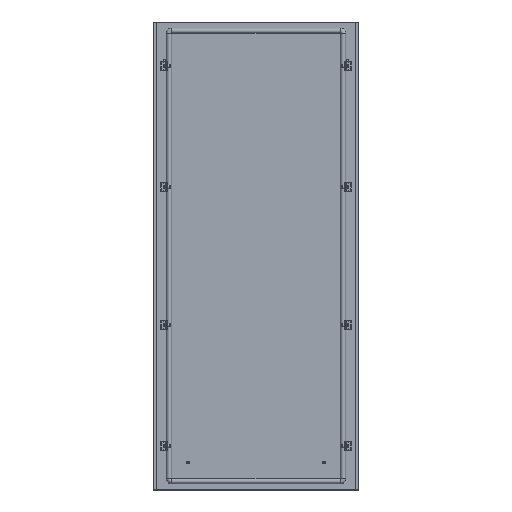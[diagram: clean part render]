
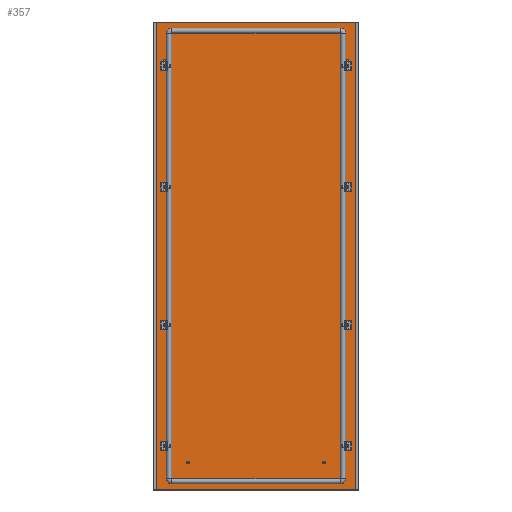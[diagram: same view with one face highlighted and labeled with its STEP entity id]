
A CAD part, top view. The second image highlights one B-rep face of the part: STEP entity #357.
In plain terms, the highlighted planar face has unit normal (0, 0, 1).
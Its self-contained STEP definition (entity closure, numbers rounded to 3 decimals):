
#357 = ADVANCED_FACE('',(#358,#456,#467,#478,#498,#518,#529,#540,#560),
  #580,.F.);
#358 = FACE_BOUND('',#359,.T.);
#359 = EDGE_LOOP('',(#360,#370,#378,#386,#394,#402,#410,#418,#426,#434,
    #442,#450));
#360 = ORIENTED_EDGE('',*,*,#361,.F.);
#361 = EDGE_CURVE('',#362,#364,#366,.T.);
#362 = VERTEX_POINT('',#363);
#363 = CARTESIAN_POINT('',(-295.5,677.5,0.));
#364 = VERTEX_POINT('',#365);
#365 = CARTESIAN_POINT('',(-295.3,677.5,0.));
#366 = LINE('',#367,#368);
#367 = CARTESIAN_POINT('',(0.,677.5,0.)
  );
#368 = VECTOR('',#369,1.);
#369 = DIRECTION('',(1.,0.,0.));
#370 = ORIENTED_EDGE('',*,*,#371,.T.);
#371 = EDGE_CURVE('',#362,#372,#374,.T.);
#372 = VERTEX_POINT('',#373);
#373 = CARTESIAN_POINT('',(-295.5,-677.5,0.));
#374 = LINE('',#375,#376);
#375 = CARTESIAN_POINT('',(-295.5,0.,0.)
  );
#376 = VECTOR('',#377,1.);
#377 = DIRECTION('',(0.,-1.,0.));
#378 = ORIENTED_EDGE('',*,*,#379,.T.);
#379 = EDGE_CURVE('',#372,#380,#382,.T.);
#380 = VERTEX_POINT('',#381);
#381 = CARTESIAN_POINT('',(-295.3,-677.5,0.));
#382 = LINE('',#383,#384);
#383 = CARTESIAN_POINT('',(0.,-677.5,
    0.));
#384 = VECTOR('',#385,1.);
#385 = DIRECTION('',(1.,-0.,-0.));
#386 = ORIENTED_EDGE('',*,*,#387,.F.);
#387 = EDGE_CURVE('',#388,#380,#390,.T.);
#388 = VERTEX_POINT('',#389);
#389 = CARTESIAN_POINT('',(-295.3,-676.,0.));
#390 = LINE('',#391,#392);
#391 = CARTESIAN_POINT('',(-295.3,0.,0.)
  );
#392 = VECTOR('',#393,1.);
#393 = DIRECTION('',(0.,-1.,0.));
#394 = ORIENTED_EDGE('',*,*,#395,.T.);
#395 = EDGE_CURVE('',#388,#396,#398,.T.);
#396 = VERTEX_POINT('',#397);
#397 = CARTESIAN_POINT('',(295.3,-676.,0.));
#398 = LINE('',#399,#400);
#399 = CARTESIAN_POINT('',(0.,-676.,0.)
  );
#400 = VECTOR('',#401,1.);
#401 = DIRECTION('',(1.,-0.,-0.));
#402 = ORIENTED_EDGE('',*,*,#403,.T.);
#403 = EDGE_CURVE('',#396,#404,#406,.T.);
#404 = VERTEX_POINT('',#405);
#405 = CARTESIAN_POINT('',(295.3,-677.5,0.));
#406 = LINE('',#407,#408);
#407 = CARTESIAN_POINT('',(295.3,-676.,0.));
#408 = VECTOR('',#409,1.);
#409 = DIRECTION('',(0.,-1.,0.));
#410 = ORIENTED_EDGE('',*,*,#411,.F.);
#411 = EDGE_CURVE('',#412,#404,#414,.T.);
#412 = VERTEX_POINT('',#413);
#413 = CARTESIAN_POINT('',(295.5,-677.5,0.));
#414 = LINE('',#415,#416);
#415 = CARTESIAN_POINT('',(0.,-677.5,0.
    ));
#416 = VECTOR('',#417,1.);
#417 = DIRECTION('',(-1.,0.,0.));
#418 = ORIENTED_EDGE('',*,*,#419,.T.);
#419 = EDGE_CURVE('',#412,#420,#422,.T.);
#420 = VERTEX_POINT('',#421);
#421 = CARTESIAN_POINT('',(295.5,677.5,0.));
#422 = LINE('',#423,#424);
#423 = CARTESIAN_POINT('',(295.5,0.,0.));
#424 = VECTOR('',#425,1.);
#425 = DIRECTION('',(0.,1.,0.));
#426 = ORIENTED_EDGE('',*,*,#427,.T.);
#427 = EDGE_CURVE('',#420,#428,#430,.T.);
#428 = VERTEX_POINT('',#429);
#429 = CARTESIAN_POINT('',(295.3,677.5,0.));
#430 = LINE('',#431,#432);
#431 = CARTESIAN_POINT('',(0.,677.5,0.));
#432 = VECTOR('',#433,1.);
#433 = DIRECTION('',(-1.,0.,0.));
#434 = ORIENTED_EDGE('',*,*,#435,.F.);
#435 = EDGE_CURVE('',#436,#428,#438,.T.);
#436 = VERTEX_POINT('',#437);
#437 = CARTESIAN_POINT('',(295.3,676.,0.));
#438 = LINE('',#439,#440);
#439 = CARTESIAN_POINT('',(295.3,0.,
    0.));
#440 = VECTOR('',#441,1.);
#441 = DIRECTION('',(0.,1.,0.));
#442 = ORIENTED_EDGE('',*,*,#443,.T.);
#443 = EDGE_CURVE('',#436,#444,#446,.T.);
#444 = VERTEX_POINT('',#445);
#445 = CARTESIAN_POINT('',(-295.3,676.,0.));
#446 = LINE('',#447,#448);
#447 = CARTESIAN_POINT('',(0.,676.,0.)
  );
#448 = VECTOR('',#449,1.);
#449 = DIRECTION('',(-1.,0.,0.));
#450 = ORIENTED_EDGE('',*,*,#451,.T.);
#451 = EDGE_CURVE('',#444,#364,#452,.T.);
#452 = LINE('',#453,#454);
#453 = CARTESIAN_POINT('',(-295.3,676.,0.));
#454 = VECTOR('',#455,1.);
#455 = DIRECTION('',(0.,1.,0.));
#456 = FACE_BOUND('',#457,.T.);
#457 = EDGE_LOOP('',(#458));
#458 = ORIENTED_EDGE('',*,*,#459,.T.);
#459 = EDGE_CURVE('',#460,#460,#462,.T.);
#460 = VERTEX_POINT('',#461);
#461 = CARTESIAN_POINT('',(-264.5,-195.25,0.));
#462 = CIRCLE('',#463,4.75);
#463 = AXIS2_PLACEMENT_3D('',#464,#465,#466);
#464 = CARTESIAN_POINT('',(-264.5,-200.,0.));
#465 = DIRECTION('',(0.,0.,-1.));
#466 = DIRECTION('',(0.,1.,0.));
#467 = FACE_BOUND('',#468,.T.);
#468 = EDGE_LOOP('',(#469));
#469 = ORIENTED_EDGE('',*,*,#470,.T.);
#470 = EDGE_CURVE('',#471,#471,#473,.T.);
#471 = VERTEX_POINT('',#472);
#472 = CARTESIAN_POINT('',(264.5,-204.75,0.));
#473 = CIRCLE('',#474,4.75);
#474 = AXIS2_PLACEMENT_3D('',#475,#476,#477);
#475 = CARTESIAN_POINT('',(264.5,-200.,0.));
#476 = DIRECTION('',(-0.,0.,-1.));
#477 = DIRECTION('',(0.,-1.,0.));
#478 = FACE_BOUND('',#479,.T.);
#479 = EDGE_LOOP('',(#480,#491));
#480 = ORIENTED_EDGE('',*,*,#481,.F.);
#481 = EDGE_CURVE('',#482,#484,#486,.T.);
#482 = VERTEX_POINT('',#483);
#483 = CARTESIAN_POINT('',(-264.5,554.75,0.));
#484 = VERTEX_POINT('',#485);
#485 = CARTESIAN_POINT('',(-264.5,545.25,0.));
#486 = CIRCLE('',#487,4.75);
#487 = AXIS2_PLACEMENT_3D('',#488,#489,#490);
#488 = CARTESIAN_POINT('',(-264.5,550.,0.));
#489 = DIRECTION('',(0.,0.,1.));
#490 = DIRECTION('',(0.,1.,0.));
#491 = ORIENTED_EDGE('',*,*,#492,.F.);
#492 = EDGE_CURVE('',#484,#482,#493,.T.);
#493 = CIRCLE('',#494,4.75);
#494 = AXIS2_PLACEMENT_3D('',#495,#496,#497);
#495 = CARTESIAN_POINT('',(-264.5,550.,0.));
#496 = DIRECTION('',(0.,0.,1.));
#497 = DIRECTION('',(0.,1.,0.));
#498 = FACE_BOUND('',#499,.T.);
#499 = EDGE_LOOP('',(#500,#511));
#500 = ORIENTED_EDGE('',*,*,#501,.F.);
#501 = EDGE_CURVE('',#502,#504,#506,.T.);
#502 = VERTEX_POINT('',#503);
#503 = CARTESIAN_POINT('',(264.5,545.25,0.));
#504 = VERTEX_POINT('',#505);
#505 = CARTESIAN_POINT('',(264.5,554.75,0.));
#506 = CIRCLE('',#507,4.75);
#507 = AXIS2_PLACEMENT_3D('',#508,#509,#510);
#508 = CARTESIAN_POINT('',(264.5,550.,0.));
#509 = DIRECTION('',(0.,0.,1.));
#510 = DIRECTION('',(0.,-1.,0.));
#511 = ORIENTED_EDGE('',*,*,#512,.F.);
#512 = EDGE_CURVE('',#504,#502,#513,.T.);
#513 = CIRCLE('',#514,4.75);
#514 = AXIS2_PLACEMENT_3D('',#515,#516,#517);
#515 = CARTESIAN_POINT('',(264.5,550.,0.));
#516 = DIRECTION('',(0.,0.,1.));
#517 = DIRECTION('',(0.,-1.,0.));
#518 = FACE_BOUND('',#519,.T.);
#519 = EDGE_LOOP('',(#520));
#520 = ORIENTED_EDGE('',*,*,#521,.T.);
#521 = EDGE_CURVE('',#522,#522,#524,.T.);
#522 = VERTEX_POINT('',#523);
#523 = CARTESIAN_POINT('',(-264.5,-545.25,0.));
#524 = CIRCLE('',#525,4.75);
#525 = AXIS2_PLACEMENT_3D('',#526,#527,#528);
#526 = CARTESIAN_POINT('',(-264.5,-550.,0.));
#527 = DIRECTION('',(0.,0.,-1.));
#528 = DIRECTION('',(0.,1.,0.));
#529 = FACE_BOUND('',#530,.T.);
#530 = EDGE_LOOP('',(#531));
#531 = ORIENTED_EDGE('',*,*,#532,.T.);
#532 = EDGE_CURVE('',#533,#533,#535,.T.);
#533 = VERTEX_POINT('',#534);
#534 = CARTESIAN_POINT('',(264.5,-554.75,0.));
#535 = CIRCLE('',#536,4.75);
#536 = AXIS2_PLACEMENT_3D('',#537,#538,#539);
#537 = CARTESIAN_POINT('',(264.5,-550.,0.));
#538 = DIRECTION('',(-0.,0.,-1.));
#539 = DIRECTION('',(0.,-1.,0.));
#540 = FACE_BOUND('',#541,.T.);
#541 = EDGE_LOOP('',(#542,#553));
#542 = ORIENTED_EDGE('',*,*,#543,.F.);
#543 = EDGE_CURVE('',#544,#546,#548,.T.);
#544 = VERTEX_POINT('',#545);
#545 = CARTESIAN_POINT('',(264.5,195.25,0.));
#546 = VERTEX_POINT('',#547);
#547 = CARTESIAN_POINT('',(264.5,204.75,0.));
#548 = CIRCLE('',#549,4.75);
#549 = AXIS2_PLACEMENT_3D('',#550,#551,#552);
#550 = CARTESIAN_POINT('',(264.5,200.,0.));
#551 = DIRECTION('',(0.,0.,1.));
#552 = DIRECTION('',(0.,-1.,0.));
#553 = ORIENTED_EDGE('',*,*,#554,.F.);
#554 = EDGE_CURVE('',#546,#544,#555,.T.);
#555 = CIRCLE('',#556,4.75);
#556 = AXIS2_PLACEMENT_3D('',#557,#558,#559);
#557 = CARTESIAN_POINT('',(264.5,200.,0.));
#558 = DIRECTION('',(0.,0.,1.));
#559 = DIRECTION('',(0.,-1.,0.));
#560 = FACE_BOUND('',#561,.T.);
#561 = EDGE_LOOP('',(#562,#573));
#562 = ORIENTED_EDGE('',*,*,#563,.F.);
#563 = EDGE_CURVE('',#564,#566,#568,.T.);
#564 = VERTEX_POINT('',#565);
#565 = CARTESIAN_POINT('',(-264.5,204.75,0.));
#566 = VERTEX_POINT('',#567);
#567 = CARTESIAN_POINT('',(-264.5,195.25,0.));
#568 = CIRCLE('',#569,4.75);
#569 = AXIS2_PLACEMENT_3D('',#570,#571,#572);
#570 = CARTESIAN_POINT('',(-264.5,200.,0.));
#571 = DIRECTION('',(0.,0.,1.));
#572 = DIRECTION('',(0.,1.,0.));
#573 = ORIENTED_EDGE('',*,*,#574,.F.);
#574 = EDGE_CURVE('',#566,#564,#575,.T.);
#575 = CIRCLE('',#576,4.75);
#576 = AXIS2_PLACEMENT_3D('',#577,#578,#579);
#577 = CARTESIAN_POINT('',(-264.5,200.,0.));
#578 = DIRECTION('',(0.,0.,1.));
#579 = DIRECTION('',(0.,1.,0.));
#580 = PLANE('',#581);
#581 = AXIS2_PLACEMENT_3D('',#582,#583,#584);
#582 = CARTESIAN_POINT('',(0.,0.,
    0.));
#583 = DIRECTION('',(0.,0.,-1.));
#584 = DIRECTION('',(-1.,0.,0.));
